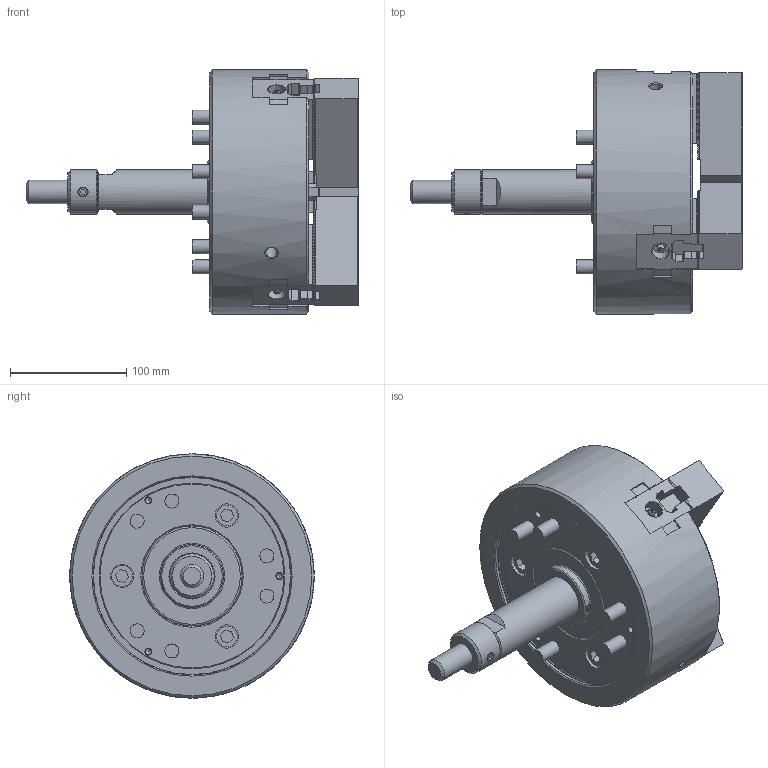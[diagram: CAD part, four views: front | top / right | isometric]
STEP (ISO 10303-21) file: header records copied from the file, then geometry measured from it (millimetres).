
FILE_DESCRIPTION (( 'STEP AP214' ), '1' );
FILE_NAME ('N-08_OC.STEP', '2020-01-23T23:54:25', ( '' ), ( '' ), 'SwSTEP 2.0', 'SolidWorks 2017', '' );
FILE_SCHEMA (( 'AUTOMOTIVE_DESIGN' ));
Length unit declared in the file: millimetre
Products named in the file (18): 俛傾僫僣僉 M12x3512x35; 61P3042911 ソフトジョー_W_‡_[_ﾃﾞﾌｫﾙﾄ_ATI≪UA; 61P3042911 ソフトジョー_W_‡_[; N-08_OC; Part3^61P266459_1 クミタテ_^_e; 俛傾僫僣僉 M12x3512x35_B迸路 M12X3512X35; 61P4007445 T僫僢僩b_g; 61P4007445 T僫僢僩b_g_棉太倌佱UA; Part3^61P266459_1 僋儈僞僥_^_e_棉太倌I佱UA
Assembly tree (13 placements, depth 2):
  俛傾僫僣僉 M12x3512x35
  俛傾僫僣僉 M12x3512x35
  61P3042911 ソフトジョー_W_‡_[
  N-08_OC
    61P3042911 ソフトジョー_W_‡_[_ﾃﾞﾌｫﾙﾄ_ATI≪UA  x3
    61P4007445 T僫僢僩b_g_棉太倌佱UA  x3
    俛傾僫僣僉 M12x3512x35_B迸路 M12X3512X35  x6
    Part3^61P266459_1 僋儈僞僥_^_e_棉太倌I佱UA
  61P3042911 ソフトジョー_W_‡_[
Bounding box: 285.2 x 210 x 210 mm (x, y, z)
Volume: 3210922.7 mm3; surface area: 332039.2 mm2
Topology: 13 solids, 19 shells, 2672 faces, 7571 edges, 5028 vertices
Faces by surface type: plane 2339, cylinder 186, cone 115, torus 24, sphere 6, bspline 2
Full cylindrical faces by diameter (mm): 1.9 x3, 5 x3, 6 x3, 8 x1, 8.5 x3, 8.8 x2, 9.5 x3, 10 x2, 10.2 x6, 12 x18, 13 x6, 15 x3, 18 x15, 19 x6, 20 x10, 25 x1, 27 x1, 28 x1, 29 x1, 38 x2, 54 x1, 86 x1, 170 x1, 171 x1, 210 x1
Entity records: 61571 total; most frequent: CARTESIAN_POINT 12733, ORIENTED_EDGE 10420, DIRECTION 9304, EDGE_CURVE 5210, VECTOR 4402, LINE 4402, VERTEX_POINT 3514, AXIS2_PLACEMENT_3D 2451
